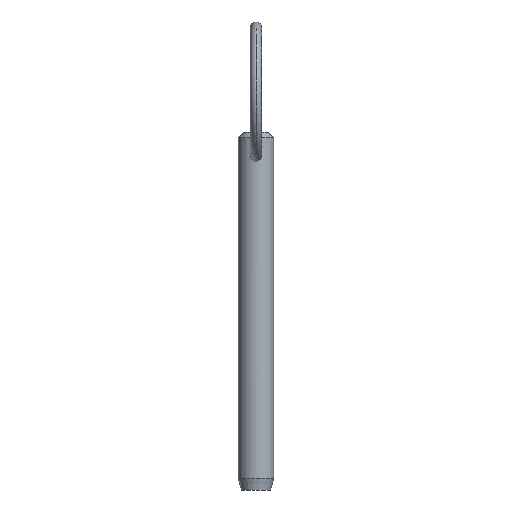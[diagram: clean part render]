
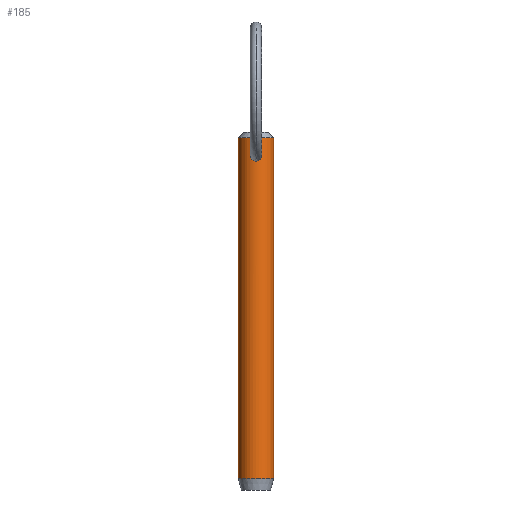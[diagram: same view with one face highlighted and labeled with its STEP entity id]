
A CAD part, front view. The second image highlights one B-rep face of the part: STEP entity #185.
In plain terms, the highlighted cylindrical face has radius 3.175 mm (diameter 6.35 mm), a partial arc.
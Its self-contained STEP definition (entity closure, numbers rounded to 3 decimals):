
#2 = CIRCLE ( 'NONE', #8, 3.175 ) ;
#3 = CARTESIAN_POINT ( 'NONE',  ( 0.617, -3.116, 53.051 ) ) ;
#4 = VERTEX_POINT ( 'NONE', #23 ) ;
#7 = CARTESIAN_POINT ( 'NONE',  ( 0., -3.175, 51.203 ) ) ;
#8 = AXIS2_PLACEMENT_3D ( 'NONE', #477, #155, #332 ) ;
#16 = DIRECTION ( 'NONE',  ( -1., 0., 0. ) ) ;
#20 = CARTESIAN_POINT ( 'NONE',  ( -0.991, -3.016, 52.496 ) ) ;
#23 = CARTESIAN_POINT ( 'NONE',  ( -3.175, 0., 55.38 ) ) ;
#31 = EDGE_LOOP ( 'NONE', ( #433, #462 ) ) ;
#48 = VERTEX_POINT ( 'NONE', #481 ) ;
#55 = ORIENTED_EDGE ( 'NONE', *, *, #435, .T. ) ;
#70 = VERTEX_POINT ( 'NONE', #156 ) ;
#83 = LINE ( 'NONE', #151, #132 ) ;
#84 = CARTESIAN_POINT ( 'NONE',  ( 0.888, -3.049, 51.709 ) ) ;
#85 = CARTESIAN_POINT ( 'NONE',  ( 0.982, -3.02, 51.958 ) ) ;
#87 = CARTESIAN_POINT ( 'NONE',  ( 0.269, -3.166, 53.25 ) ) ;
#99 = ORIENTED_EDGE ( 'NONE', *, *, #163, .T. ) ;
#101 = CARTESIAN_POINT ( 'NONE',  ( -0.508, -3.136, 53.135 ) ) ;
#102 = DIRECTION ( 'NONE',  ( 0., 0., 1. ) ) ;
#103 = CARTESIAN_POINT ( 'NONE',  ( -0.328, -3.159, 53.221 ) ) ;
#109 = DIRECTION ( 'NONE',  ( 0., 0., -1. ) ) ;
#117 = EDGE_CURVE ( 'NONE', #48, #70, #83, .T. ) ;
#120 = CARTESIAN_POINT ( 'NONE',  ( 0.268, -3.166, 51.229 ) ) ;
#126 = CARTESIAN_POINT ( 'NONE',  ( 0.134, -3.175, 53.282 ) ) ;
#128 = VECTOR ( 'NONE', #220, 1000. ) ;
#132 = VECTOR ( 'NONE', #109, 1000. ) ;
#138 = CARTESIAN_POINT ( 'NONE',  ( -0.269, -3.166, 51.229 ) ) ;
#145 = CARTESIAN_POINT ( 'NONE',  ( -0.516, -3.135, 51.331 ) ) ;
#151 = CARTESIAN_POINT ( 'NONE',  ( 3.175, 0., 50.8 ) ) ;
#155 = DIRECTION ( 'NONE',  ( 0., 0., -1. ) ) ;
#156 = CARTESIAN_POINT ( 'NONE',  ( 3.175, 0., -5.92 ) ) ;
#163 = EDGE_CURVE ( 'NONE', #48, #4, #2, .T. ) ;
#164 = CARTESIAN_POINT ( 'NONE',  ( 0., -3.175, 51.203 ) ) ;
#166 = CARTESIAN_POINT ( 'NONE',  ( 0.51, -3.136, 53.134 ) ) ;
#178 = CARTESIAN_POINT ( 'NONE',  ( -0.882, -3.055, 52.76 ) ) ;
#184 = CARTESIAN_POINT ( 'NONE',  ( -0.134, -3.175, 51.203 ) ) ;
#185 = ADVANCED_FACE ( 'NONE', ( #416, #191 ), #381, .T. ) ;
#191 = FACE_BOUND ( 'NONE', #31, .T. ) ;
#206 = CARTESIAN_POINT ( 'NONE',  ( 0., 0., 50.8 ) ) ;
#215 = AXIS2_PLACEMENT_3D ( 'NONE', #206, #233, #304 ) ;
#220 = DIRECTION ( 'NONE',  ( 0., 0., -1. ) ) ;
#232 = CIRCLE ( 'NONE', #266, 3.175 ) ;
#233 = DIRECTION ( 'NONE',  ( 0., 0., -1. ) ) ;
#237 = CARTESIAN_POINT ( 'NONE',  ( 0.628, -3.114, 51.404 ) ) ;
#248 = CARTESIAN_POINT ( 'NONE',  ( -0.888, -3.049, 51.709 ) ) ;
#250 = EDGE_CURVE ( 'NONE', #317, #306, #281, .T. ) ;
#256 = CARTESIAN_POINT ( 'NONE',  ( 0., -3.175, 51.203 ) ) ;
#266 = AXIS2_PLACEMENT_3D ( 'NONE', #386, #102, #16 ) ;
#269 = CARTESIAN_POINT ( 'NONE',  ( 0.992, -3.016, 52.494 ) ) ;
#281 = B_SPLINE_CURVE_WITH_KNOTS ( 'NONE', 3,
 ( #444, #126, #87, #166, #3, #341, #269, #375, #85, #84, #451, #237, #335, #120, #484, #164 ),
 .UNSPECIFIED., .F., .F.,
 ( 4, 2, 2, 2, 2, 2, 2, 4 ),
 ( 0.003, 0.003, 0.004, 0.004, 0.005, 0.005, 0.006, 0.006 ),
 .UNSPECIFIED. ) ;
#282 = CARTESIAN_POINT ( 'NONE',  ( -0.629, -3.114, 51.405 ) ) ;
#284 = VERTEX_POINT ( 'NONE', #419 ) ;
#288 = CARTESIAN_POINT ( 'NONE',  ( -0.983, -3.02, 51.959 ) ) ;
#298 = LINE ( 'NONE', #310, #128 ) ;
#304 = DIRECTION ( 'NONE',  ( -1., 0., 0. ) ) ;
#305 = ORIENTED_EDGE ( 'NONE', *, *, #409, .T. ) ;
#306 = VERTEX_POINT ( 'NONE', #7 ) ;
#310 = CARTESIAN_POINT ( 'NONE',  ( -3.175, 0., 50.8 ) ) ;
#317 = VERTEX_POINT ( 'NONE', #380 ) ;
#324 = CARTESIAN_POINT ( 'NONE',  ( -0.615, -3.116, 53.053 ) ) ;
#332 = DIRECTION ( 'NONE',  ( 1., 0., 0. ) ) ;
#335 = CARTESIAN_POINT ( 'NONE',  ( 0.515, -3.135, 51.33 ) ) ;
#341 = CARTESIAN_POINT ( 'NONE',  ( 0.884, -3.055, 52.757 ) ) ;
#353 = CARTESIAN_POINT ( 'NONE',  ( -0.815, -3.07, 51.595 ) ) ;
#356 = EDGE_LOOP ( 'NONE', ( #410, #99, #305, #55 ) ) ;
#375 = CARTESIAN_POINT ( 'NONE',  ( 1.004, -3.012, 52.093 ) ) ;
#380 = CARTESIAN_POINT ( 'NONE',  ( 0., -3.175, 53.282 ) ) ;
#381 = CYLINDRICAL_SURFACE ( 'NONE', #215, 3.175 ) ;
#386 = CARTESIAN_POINT ( 'NONE',  ( 0., 0., -5.92 ) ) ;
#390 = CARTESIAN_POINT ( 'NONE',  ( -0.133, -3.173, 53.274 ) ) ;
#392 = CARTESIAN_POINT ( 'NONE',  ( -1.004, -3.012, 52.095 ) ) ;
#393 = B_SPLINE_CURVE_WITH_KNOTS ( 'NONE', 3,
 ( #256, #184, #138, #145, #282, #353, #248, #288, #392, #20, #178, #324, #101, #103, #427, #390, #464, #425 ),
 .UNSPECIFIED., .F., .F.,
 ( 4, 2, 2, 2, 2, 2, 2, 2, 4 ),
 ( 0.006, 0.006, 0.007, 0.007, 0.008, 0.008, 0.009, 0.009, 0.009 ),
 .UNSPECIFIED. ) ;
#409 = EDGE_CURVE ( 'NONE', #4, #284, #298, .T. ) ;
#410 = ORIENTED_EDGE ( 'NONE', *, *, #117, .F. ) ;
#416 = FACE_OUTER_BOUND ( 'NONE', #356, .T. ) ;
#419 = CARTESIAN_POINT ( 'NONE',  ( -3.175, 0., -5.92 ) ) ;
#425 = CARTESIAN_POINT ( 'NONE',  ( 0., -3.175, 53.282 ) ) ;
#427 = CARTESIAN_POINT ( 'NONE',  ( -0.264, -3.165, 53.244 ) ) ;
#433 = ORIENTED_EDGE ( 'NONE', *, *, #250, .T. ) ;
#435 = EDGE_CURVE ( 'NONE', #284, #70, #232, .T. ) ;
#444 = CARTESIAN_POINT ( 'NONE',  ( 0., -3.175, 53.282 ) ) ;
#451 = CARTESIAN_POINT ( 'NONE',  ( 0.815, -3.07, 51.595 ) ) ;
#462 = ORIENTED_EDGE ( 'NONE', *, *, #485, .T. ) ;
#464 = CARTESIAN_POINT ( 'NONE',  ( -0.067, -3.175, 53.282 ) ) ;
#477 = CARTESIAN_POINT ( 'NONE',  ( 0., 0., 55.38 ) ) ;
#481 = CARTESIAN_POINT ( 'NONE',  ( 3.175, 0., 55.38 ) ) ;
#484 = CARTESIAN_POINT ( 'NONE',  ( 0.134, -3.175, 51.203 ) ) ;
#485 = EDGE_CURVE ( 'NONE', #306, #317, #393, .T. ) ;
